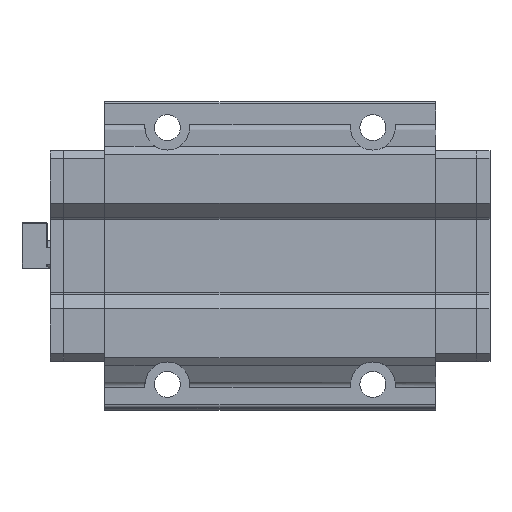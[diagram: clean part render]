
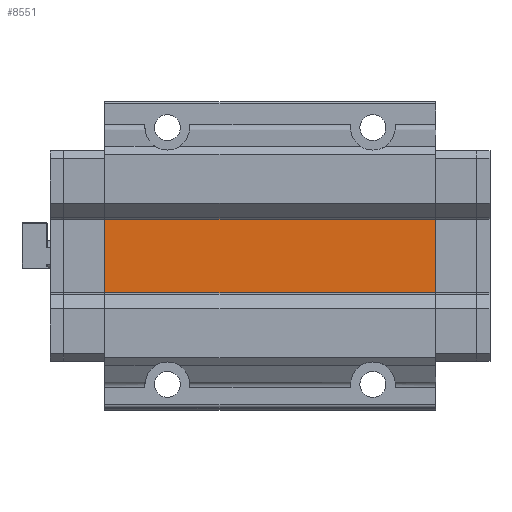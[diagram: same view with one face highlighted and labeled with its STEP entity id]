
A CAD part, front view. The second image highlights one B-rep face of the part: STEP entity #8551.
In plain terms, the highlighted planar face has unit normal (0, -1, 0).
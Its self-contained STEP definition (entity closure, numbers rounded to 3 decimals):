
#410 = VERTEX_POINT ( 'NONE', #9045 ) ;
#432 = DIRECTION ( 'NONE',  ( 0., 0., -1. ) ) ;
#503 = VECTOR ( 'NONE', #1506, 1000. ) ;
#1085 = VECTOR ( 'NONE', #7287, 1000. ) ;
#1337 = DIRECTION ( 'NONE',  ( 0., 0., -1. ) ) ;
#1506 = DIRECTION ( 'NONE',  ( 0., 0., 1. ) ) ;
#1859 = VERTEX_POINT ( 'NONE', #13296 ) ;
#2306 = ORIENTED_EDGE ( 'NONE', *, *, #9340, .F. ) ;
#2311 = LINE ( 'NONE', #10858, #9401 ) ;
#2430 = FACE_OUTER_BOUND ( 'NONE', #4786, .T. ) ;
#3175 = EDGE_CURVE ( 'NONE', #1859, #410, #5299, .T. ) ;
#3759 = ORIENTED_EDGE ( 'NONE', *, *, #8421, .F. ) ;
#3854 = CARTESIAN_POINT ( 'NONE',  ( -64.4, 0., 14.4 ) ) ;
#4770 = ORIENTED_EDGE ( 'NONE', *, *, #13036, .F. ) ;
#4786 = EDGE_LOOP ( 'NONE', ( #3759, #4770, #2306, #8448 ) ) ;
#5299 = LINE ( 'NONE', #11613, #1085 ) ;
#5691 = VERTEX_POINT ( 'NONE', #3854 ) ;
#5790 = DIRECTION ( 'NONE',  ( 1., 0., 0. ) ) ;
#6195 = VECTOR ( 'NONE', #5790, 1000. ) ;
#6927 = CARTESIAN_POINT ( 'NONE',  ( -85.6, 0., 14.4 ) ) ;
#7287 = DIRECTION ( 'NONE',  ( 1., 0., 0. ) ) ;
#8051 = CARTESIAN_POINT ( 'NONE',  ( -64.4, 0., 14.4 ) ) ;
#8421 = EDGE_CURVE ( 'NONE', #13105, #410, #2311, .T. ) ;
#8448 = ORIENTED_EDGE ( 'NONE', *, *, #3175, .T. ) ;
#8551 = ADVANCED_FACE ( 'NONE', ( #2430 ), #13287, .T. ) ;
#8999 = CARTESIAN_POINT ( 'NONE',  ( -64.4, 0., 7.2 ) ) ;
#9045 = CARTESIAN_POINT ( 'NONE',  ( 64.4, 0., -14.4 ) ) ;
#9184 = AXIS2_PLACEMENT_3D ( 'NONE', #8051, #10069, #432 ) ;
#9340 = EDGE_CURVE ( 'NONE', #1859, #5691, #10036, .T. ) ;
#9401 = VECTOR ( 'NONE', #1337, 1000. ) ;
#10036 = LINE ( 'NONE', #8999, #503 ) ;
#10069 = DIRECTION ( 'NONE',  ( 0., -1., 0. ) ) ;
#10858 = CARTESIAN_POINT ( 'NONE',  ( 64.4, 0., 7.2 ) ) ;
#11054 = CARTESIAN_POINT ( 'NONE',  ( 64.4, 0., 14.4 ) ) ;
#11613 = CARTESIAN_POINT ( 'NONE',  ( -85.6, 0., -14.4 ) ) ;
#13004 = LINE ( 'NONE', #6927, #6195 ) ;
#13036 = EDGE_CURVE ( 'NONE', #5691, #13105, #13004, .T. ) ;
#13105 = VERTEX_POINT ( 'NONE', #11054 ) ;
#13287 = PLANE ( 'NONE',  #9184 ) ;
#13296 = CARTESIAN_POINT ( 'NONE',  ( -64.4, 0., -14.4 ) ) ;
